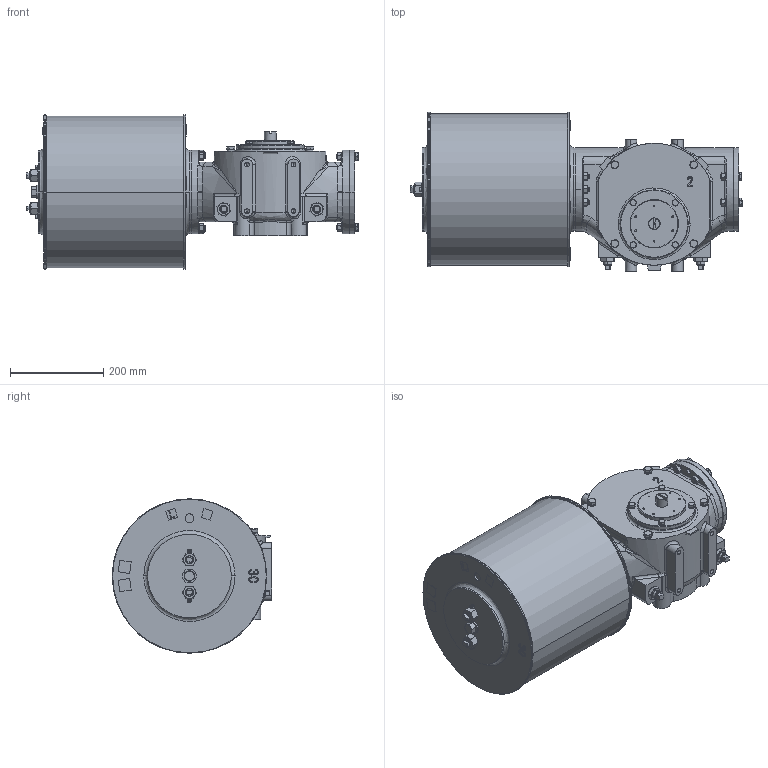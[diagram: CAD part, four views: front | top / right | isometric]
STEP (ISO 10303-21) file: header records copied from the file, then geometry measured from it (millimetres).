
FILE_DESCRIPTION (( 'STEP AP203' ), '1' );
FILE_NAME ('VTS2-300.STEP', '2022-11-16T05:22:52', ( '' ), ( '' ), 'SwSTEP 2.0', 'SolidWorks 2020', '' );
FILE_SCHEMA (( 'CONFIG_CONTROL_DESIGN' ));
Length unit declared in the file: millimetre
Products named in the file (1): VTS2-300
Bounding box: 713.58 x 343 x 332 mm (x, y, z)
Volume: 37482772.6 mm3; surface area: 1037108.9 mm2
Topology: 3 solids, 5 shells, 1505 faces, 3810 edges, 2403 vertices
Faces by surface type: plane 604, cylinder 442, cone 300, bspline 159
Entity records: 60692 total; most frequent: CARTESIAN_POINT 25716, ORIENTED_EDGE 7548, DIRECTION 7025, EDGE_CURVE 3774, AXIS2_PLACEMENT_3D 2770, VERTEX_POINT 2403, EDGE_LOOP 1677, FACE_OUTER_BOUND 1505
